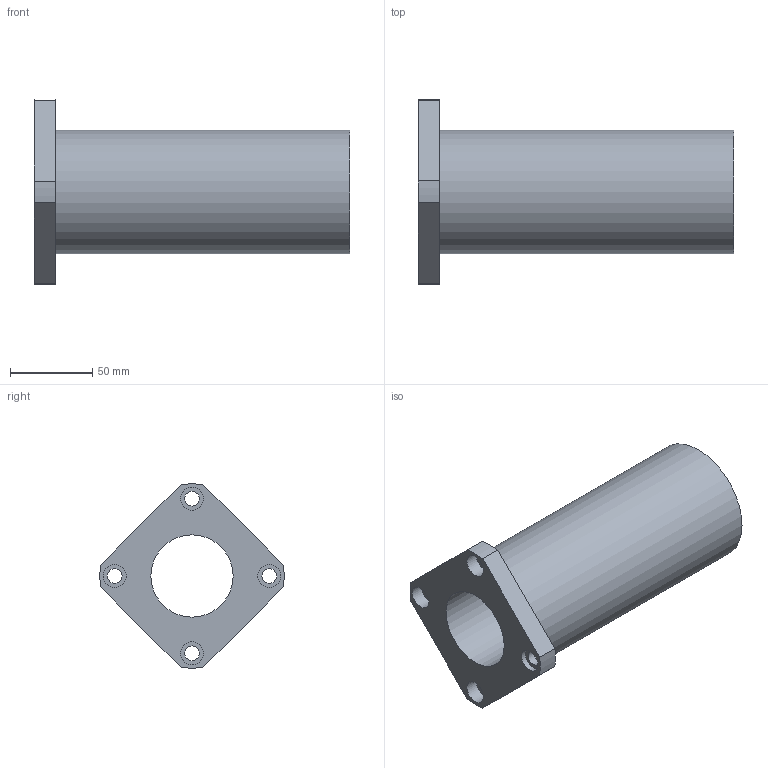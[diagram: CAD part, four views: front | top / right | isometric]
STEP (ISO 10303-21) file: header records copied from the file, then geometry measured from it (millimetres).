
FILE_DESCRIPTION( ( 'STEP AP203' ), '1' );
FILE_NAME( 'p:/temp/worker_9/temp/exporttempdir_2600_168_6PaTC/format_0/LMEK50LUU.stp', '2020-05-07T07:02:59', ( 'License CC BY-ND 4.0' ), ( 'CADENAS' ), ' ', 'PARTsolutions', ' ' );
FILE_SCHEMA( ( 'CONFIG_CONTROL_DESIGN' ) );
Length unit declared in the file: millimetre
Products named in the file (1): _LMEK50LUU
Bounding box: 192 x 111.91 x 111.91 mm (x, y, z)
Volume: 506598.6 mm3; surface area: 89257.8 mm2
Topology: 1 solids, 1 shells, 25 faces, 55 edges, 37 vertices
Faces by surface type: cylinder 14, plane 11
Full cylindrical faces by diameter (mm): 9 x4, 14 x4, 50 x1, 75 x1
Entity records: 710 total; most frequent: DIRECTION 124, CARTESIAN_POINT 106, ORIENTED_EDGE 88, AXIS2_PLACEMENT_3D 54, EDGE_LOOP 50, EDGE_CURVE 44, VERTEX_POINT 36, FACE_OUTER_BOUND 35
